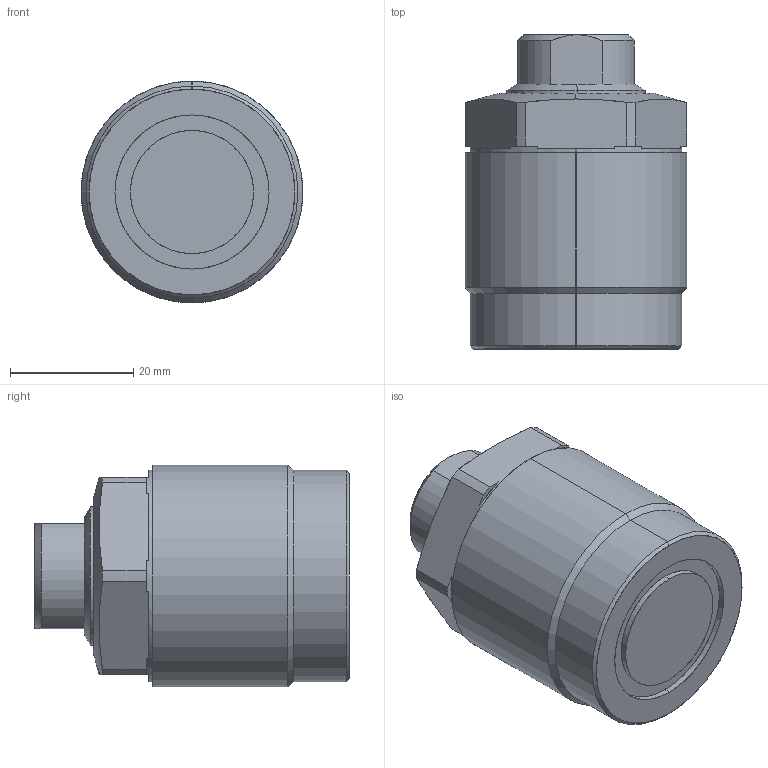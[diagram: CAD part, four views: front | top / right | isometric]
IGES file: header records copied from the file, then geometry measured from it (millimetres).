
Start section: SolidWorks IGES file using analytic representation for surfaces
Global section: file name: D:\karuppas\Clasp\3D model\Thread body cylinder\T03C-M364-S threaded pusher\T03C-M364-S threaded pusher.IGS; native system: SolidWorks 2017; preprocessor: SolidWorks 2017; author: pc; date: 220709.231254; units: millimetre
Bounding box: 36 x 51 x 36 mm (x, y, z)
Surface area: 10648 mm2 (no closed solid volume)
Topology: 0 solids, 0 shells, 271 faces, 3323 edges, 3321 vertices
Faces by surface type: bspline 230, revolution 41
